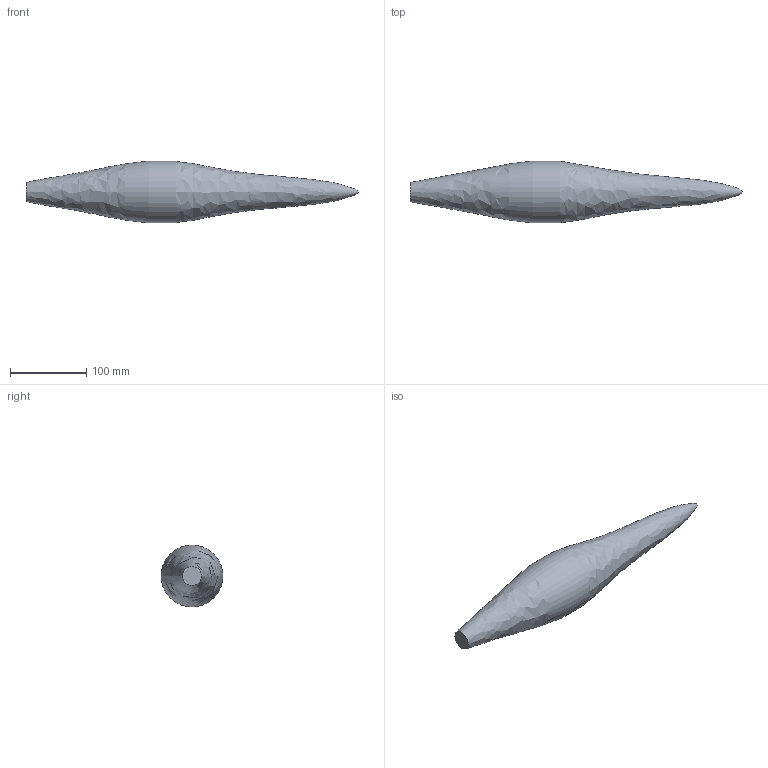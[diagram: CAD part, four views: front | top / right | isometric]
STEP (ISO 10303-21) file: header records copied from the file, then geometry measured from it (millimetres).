
FILE_DESCRIPTION((''),'2;1');
FILE_NAME('J:\Projekte\Kunststoff-Blechteile\Zeichnungen\Bibliothek Inventor\3D Solids\nero\STP\nero-35\detection range 350 pipe.stp','2012-02-27T15:18:48',('Oliver Liedtke'),(''),'Autodesk Inventor 2009','Autodesk Inventor 2009','');
FILE_SCHEMA(('AUTOMOTIVE_DESIGN { 1 0 10303 214 1 1 1 1 }'));
Length unit declared in the file: millimetre
Products named in the file (1): detection range 350 pipe
Bounding box: 436.16 x 81.31 x 81.31 mm (x, y, z)
Volume: 1069331.4 mm3; surface area: 72839.4 mm2
Topology: 1 solids, 1 shells, 2 faces, 3 edges, 2 vertices
Faces by surface type: revolution 1, plane 1
Entity records: 98 total; most frequent: CARTESIAN_POINT 28, DIRECTION 7, ORIENTED_EDGE 4, AXIS2_PLACEMENT_3D 3, DIMENSIONAL_EXPONENTS 2, PLANE_ANGLE_MEASURE_WITH_UNIT 2, UNCERTAINTY_MEASURE_WITH_UNIT 2, B_SPLINE_CURVE_WITH_KNOTS 2
